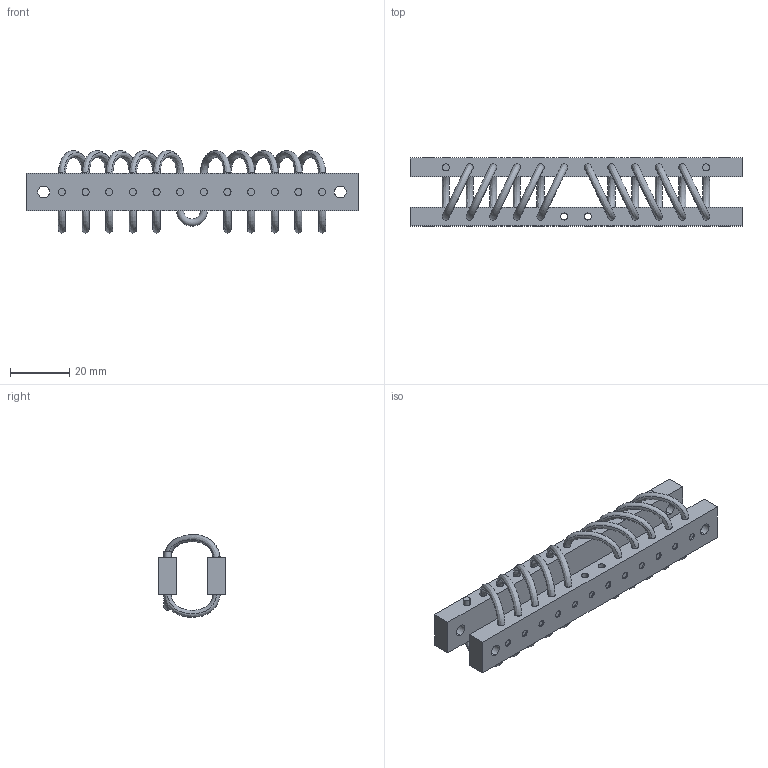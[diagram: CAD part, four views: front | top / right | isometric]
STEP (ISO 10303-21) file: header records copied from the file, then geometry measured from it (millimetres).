
FILE_DESCRIPTION (( 'STEP AP214' ), '1' );
FILE_NAME ('WR3-100-10DM.STEP', '2018-12-07T09:46:52', ( 'user' ), ( 'Microsoft' ), 'SwSTEP 2.0', 'SolidWorks 2016', '' );
FILE_SCHEMA (( 'AUTOMOTIVE_DESIGN' ));
Length unit declared in the file: millimetre
Products named in the file (1): WR3-100-10DM
Bounding box: 112.3 x 23 x 27.99 mm (x, y, z)
Volume: 20014.9 mm3; surface area: 17361.7 mm2
Topology: 25 solids, 25 shells, 316 faces, 702 edges, 460 vertices
Faces by surface type: cylinder 192, plane 82, bspline 40, torus 2
Entity records: 20170 total; most frequent: CARTESIAN_POINT 12899, ORIENTED_EDGE 1404, DIRECTION 1382, EDGE_CURVE 702, AXIS2_PLACEMENT_3D 583, VERTEX_POINT 460, EDGE_LOOP 396, ADVANCED_FACE 316
